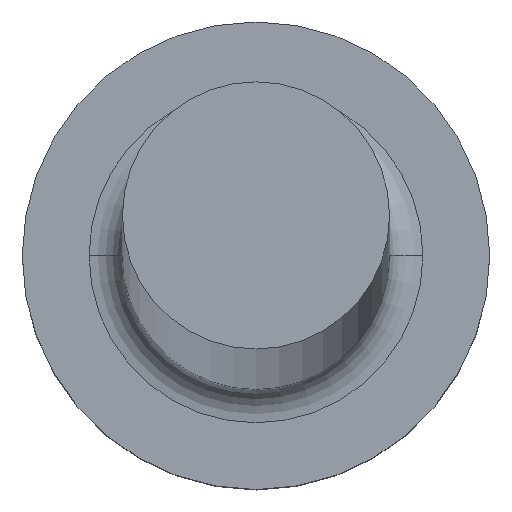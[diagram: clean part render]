
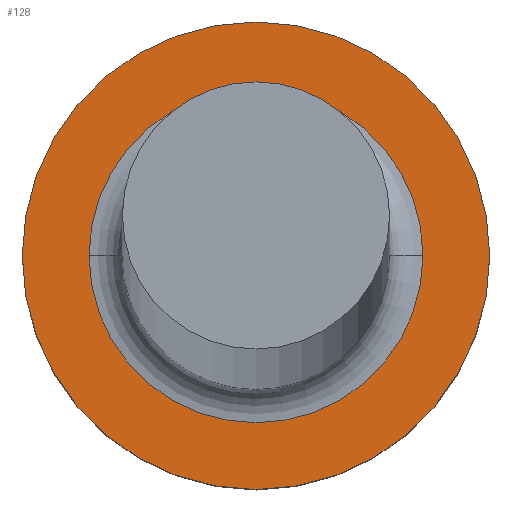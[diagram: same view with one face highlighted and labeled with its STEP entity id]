
A CAD part, top view. The second image highlights one B-rep face of the part: STEP entity #128.
In plain terms, the highlighted planar face has unit normal (0, 0, 1).
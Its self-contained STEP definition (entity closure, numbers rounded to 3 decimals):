
#4 = CARTESIAN_POINT ( 'NONE',  ( 2.5, 0., 4. ) ) ;
#11 = PLANE ( 'NONE',  #206 ) ;
#15 = DIRECTION ( 'NONE',  ( -1., 0., 0. ) ) ;
#20 = EDGE_CURVE ( 'NONE', #101, #179, #169, .T. ) ;
#37 = DIRECTION ( 'NONE',  ( -1., 0., 0. ) ) ;
#47 = ORIENTED_EDGE ( 'NONE', *, *, #136, .T. ) ;
#50 = VERTEX_POINT ( 'NONE', #183 ) ;
#57 = ORIENTED_EDGE ( 'NONE', *, *, #100, .F. ) ;
#61 = AXIS2_PLACEMENT_3D ( 'NONE', #199, #75, #37 ) ;
#64 = VERTEX_POINT ( 'NONE', #4 ) ;
#75 = DIRECTION ( 'NONE',  ( 0., 0., -1. ) ) ;
#80 = ORIENTED_EDGE ( 'NONE', *, *, #189, .T. ) ;
#94 = DIRECTION ( 'NONE',  ( 0., 0., -1. ) ) ;
#99 = CARTESIAN_POINT ( 'NONE',  ( 3.5, 0., 4. ) ) ;
#100 = EDGE_CURVE ( 'NONE', #179, #101, #164, .T. ) ;
#101 = VERTEX_POINT ( 'NONE', #191 ) ;
#115 = FACE_BOUND ( 'NONE', #220, .T. ) ;
#128 = ADVANCED_FACE ( 'NONE', ( #115, #168 ), #11, .F. ) ;
#134 = CARTESIAN_POINT ( 'NONE',  ( 0., 0., 4. ) ) ;
#135 = DIRECTION ( 'NONE',  ( 0., 0., -1. ) ) ;
#136 = EDGE_CURVE ( 'NONE', #50, #64, #203, .T. ) ;
#150 = EDGE_LOOP ( 'NONE', ( #57, #205 ) ) ;
#158 = DIRECTION ( 'NONE',  ( -1., 0., 0. ) ) ;
#164 = CIRCLE ( 'NONE', #224, 3.5 ) ;
#168 = FACE_OUTER_BOUND ( 'NONE', #150, .T. ) ;
#169 = CIRCLE ( 'NONE', #259, 3.5 ) ;
#177 = CIRCLE ( 'NONE', #61, 2.5 ) ;
#179 = VERTEX_POINT ( 'NONE', #258 ) ;
#183 = CARTESIAN_POINT ( 'NONE',  ( -2.5, 0., 4. ) ) ;
#188 = DIRECTION ( 'NONE',  ( -1., 0., 0. ) ) ;
#189 = EDGE_CURVE ( 'NONE', #64, #50, #177, .T. ) ;
#191 = CARTESIAN_POINT ( 'NONE',  ( 3.5, 0., 4. ) ) ;
#199 = CARTESIAN_POINT ( 'NONE',  ( 0., 0., 4. ) ) ;
#202 = CARTESIAN_POINT ( 'NONE',  ( 0., 0., 4. ) ) ;
#203 = CIRCLE ( 'NONE', #222, 2.5 ) ;
#204 = DIRECTION ( 'NONE',  ( 0., 0., -1. ) ) ;
#205 = ORIENTED_EDGE ( 'NONE', *, *, #20, .F. ) ;
#206 = AXIS2_PLACEMENT_3D ( 'NONE', #99, #243, #15 ) ;
#216 = CARTESIAN_POINT ( 'NONE',  ( 0., 0., 4. ) ) ;
#220 = EDGE_LOOP ( 'NONE', ( #47, #80 ) ) ;
#222 = AXIS2_PLACEMENT_3D ( 'NONE', #216, #94, #188 ) ;
#224 = AXIS2_PLACEMENT_3D ( 'NONE', #134, #135, #158 ) ;
#229 = DIRECTION ( 'NONE',  ( -1., 0., 0. ) ) ;
#243 = DIRECTION ( 'NONE',  ( 0., 0., -1. ) ) ;
#258 = CARTESIAN_POINT ( 'NONE',  ( -3.5, 0., 4. ) ) ;
#259 = AXIS2_PLACEMENT_3D ( 'NONE', #202, #204, #229 ) ;
